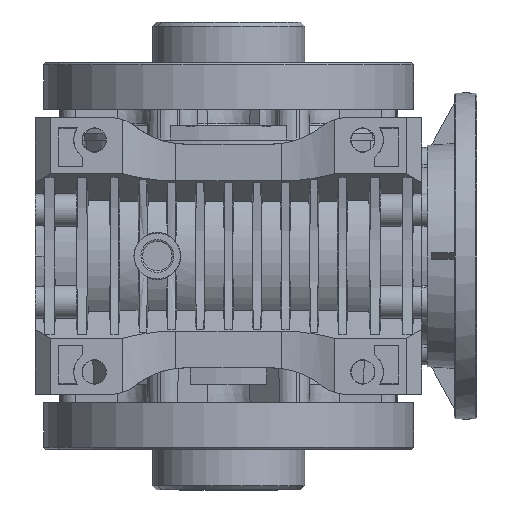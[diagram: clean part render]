
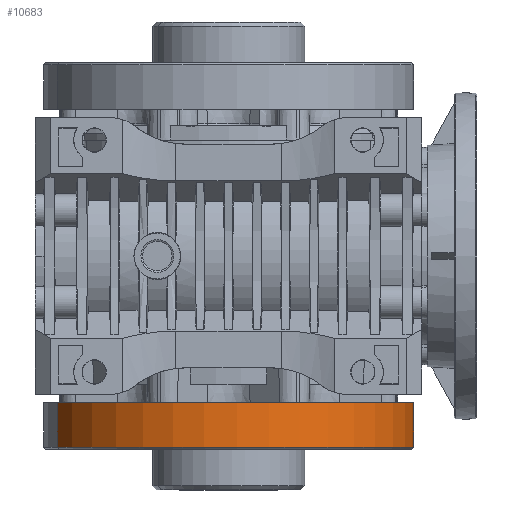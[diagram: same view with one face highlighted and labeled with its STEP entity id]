
A CAD part, front view. The second image highlights one B-rep face of the part: STEP entity #10683.
In plain terms, the highlighted cylindrical face has radius 91 mm (diameter 182 mm), a partial arc.
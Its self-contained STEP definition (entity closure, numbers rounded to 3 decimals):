
#4000 = VERTEX_POINT ( 'NONE', #39603 ) ;
#6118 = CYLINDRICAL_SURFACE ( 'NONE', #14348, 91. ) ;
#6868 = CARTESIAN_POINT ( 'NONE',  ( 84.073, 34.824, -72. ) ) ;
#10683 = ADVANCED_FACE ( 'NONE', ( #23191 ), #6118, .T. ) ;
#11957 = DIRECTION ( 'NONE',  ( 0., 0., 1. ) ) ;
#12969 = DIRECTION ( 'NONE',  ( -0.924, -0.383, 0. ) ) ;
#14348 = AXIS2_PLACEMENT_3D ( 'NONE', #67473, #44832, #22202 ) ;
#15908 = VECTOR ( 'NONE', #30955, 1000. ) ;
#18773 = EDGE_CURVE ( 'NONE', #84302, #32572, #67703, .T. ) ;
#18779 = DIRECTION ( 'NONE',  ( 0., 0., 1. ) ) ;
#22202 = DIRECTION ( 'NONE',  ( -0.924, -0.383, 0. ) ) ;
#23191 = FACE_OUTER_BOUND ( 'NONE', #78184, .T. ) ;
#26204 = DIRECTION ( 'NONE',  ( 0., 0., 1. ) ) ;
#27654 = VERTEX_POINT ( 'NONE', #70612 ) ;
#30955 = DIRECTION ( 'NONE',  ( 0., 0., 1. ) ) ;
#31742 = CARTESIAN_POINT ( 'NONE',  ( 84.073, 34.824, -72. ) ) ;
#32337 = EDGE_CURVE ( 'NONE', #4000, #27654, #41900, .T. ) ;
#32572 = VERTEX_POINT ( 'NONE', #31742 ) ;
#36884 = CIRCLE ( 'NONE', #89977, 91. ) ;
#39246 = ORIENTED_EDGE ( 'NONE', *, *, #18773, .T. ) ;
#39603 = CARTESIAN_POINT ( 'NONE',  ( -84.073, -34.824, -94. ) ) ;
#40848 = EDGE_CURVE ( 'NONE', #4000, #84302, #36884, .T. ) ;
#41253 = CARTESIAN_POINT ( 'NONE',  ( 0., 0., -72. ) ) ;
#41900 = LINE ( 'NONE', #49434, #92913 ) ;
#44832 = DIRECTION ( 'NONE',  ( 0., 0., 1. ) ) ;
#49434 = CARTESIAN_POINT ( 'NONE',  ( -84.073, -34.824, -72. ) ) ;
#51311 = CARTESIAN_POINT ( 'NONE',  ( 84.073, 34.824, -94. ) ) ;
#64694 = ORIENTED_EDGE ( 'NONE', *, *, #32337, .F. ) ;
#67473 = CARTESIAN_POINT ( 'NONE',  ( 0., 0., -72. ) ) ;
#67703 = LINE ( 'NONE', #6868, #15908 ) ;
#70612 = CARTESIAN_POINT ( 'NONE',  ( -84.073, -34.824, -72. ) ) ;
#74065 = ORIENTED_EDGE ( 'NONE', *, *, #79291, .F. ) ;
#78184 = EDGE_LOOP ( 'NONE', ( #92344, #39246, #74065, #64694 ) ) ;
#79291 = EDGE_CURVE ( 'NONE', #27654, #32572, #82326, .T. ) ;
#80020 = DIRECTION ( 'NONE',  ( -0.924, -0.383, 0. ) ) ;
#81883 = CARTESIAN_POINT ( 'NONE',  ( 0., 0., -94. ) ) ;
#82326 = CIRCLE ( 'NONE', #91930, 91. ) ;
#84302 = VERTEX_POINT ( 'NONE', #51311 ) ;
#89977 = AXIS2_PLACEMENT_3D ( 'NONE', #81883, #11957, #12969 ) ;
#91930 = AXIS2_PLACEMENT_3D ( 'NONE', #41253, #26204, #80020 ) ;
#92344 = ORIENTED_EDGE ( 'NONE', *, *, #40848, .T. ) ;
#92913 = VECTOR ( 'NONE', #18779, 1000. ) ;
